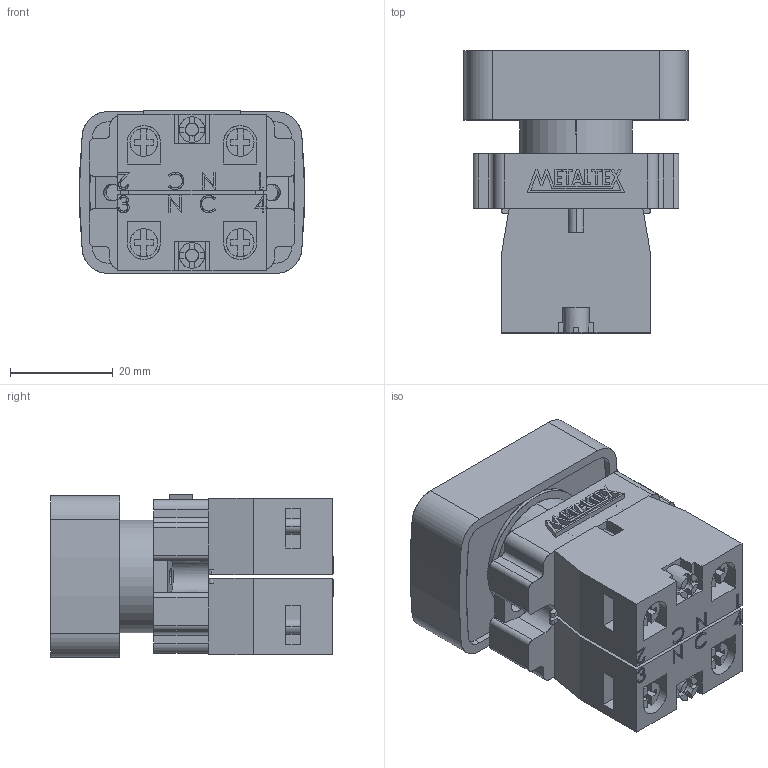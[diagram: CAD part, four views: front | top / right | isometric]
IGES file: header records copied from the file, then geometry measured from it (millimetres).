
Start section: SolidWorks IGES file using analytic representation for surfaces
Global section: file name: D:\X - Arquivos\PROEX\Empresas\P11 - METALTEX\01 - Produtos\IGES\Segunda remessa\M20APL-1C.IGS; native system: SolidWorks 2012; preprocessor: SolidWorks 2012; author: Usuario; date: 180117.120959; units: millimetre
Bounding box: 43.9 x 55.05 x 31.7 mm (x, y, z)
Surface area: 25445.4 mm2 (no closed solid volume)
Topology: 0 solids, 0 shells, 576 faces, 6112 edges, 6112 vertices
Faces by surface type: bspline 452, revolution 124
